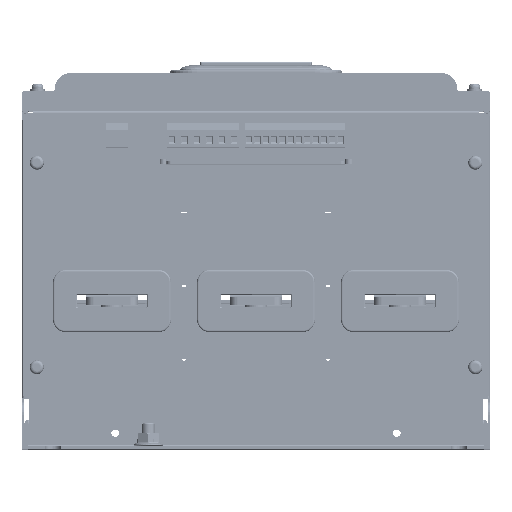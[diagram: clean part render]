
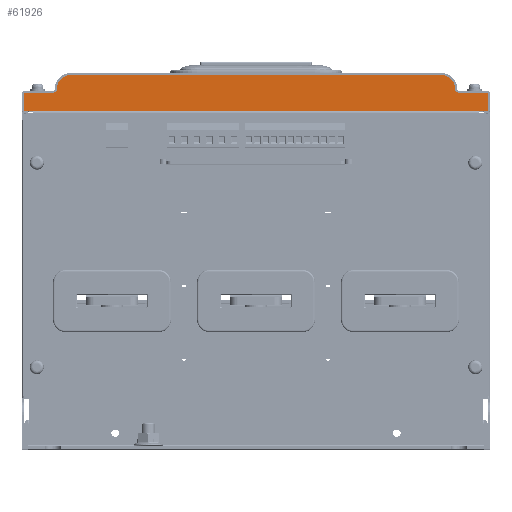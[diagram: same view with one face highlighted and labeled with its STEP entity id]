
A CAD part, top view. The second image highlights one B-rep face of the part: STEP entity #61926.
In plain terms, the highlighted planar face has unit normal (0, 0, 1) as drawn and (0, 0, -1) by its records, which use the part's own axes.
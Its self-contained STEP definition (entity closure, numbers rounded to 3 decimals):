
#61655=CARTESIAN_POINT('',(-12.5,-141.3,-188.));
#61656=DIRECTION('',(0.,0.,1.));
#61657=DIRECTION('',(0.,-1.,0.));
#61658=AXIS2_PLACEMENT_3D('',#61655,#61656,#61657);
#61660=DIRECTION('',(0.,1.,0.));
#61661=VECTOR('',#61660,17.8);
#61662=CARTESIAN_POINT('',(-12.,-141.3,-188.));
#61663=LINE('',#61662,#61661);
#61664=CARTESIAN_POINT('',(-10.3,-123.5,-188.));
#61665=DIRECTION('',(0.,0.,-1.));
#61666=DIRECTION('',(-1.,0.,0.));
#61667=AXIS2_PLACEMENT_3D('',#61664,#61665,#61666);
#61669=DIRECTION('',(1.,0.,0.));
#61670=VECTOR('',#61669,0.3);
#61671=CARTESIAN_POINT('',(-10.3,-121.8,-188.));
#61672=LINE('',#61671,#61670);
#61673=CARTESIAN_POINT('',(-10.,-113.,-188.));
#61674=DIRECTION('',(0.,0.,1.));
#61675=DIRECTION('',(0.,-1.,0.));
#61676=AXIS2_PLACEMENT_3D('',#61673,#61674,#61675);
#61678=DIRECTION('',(0.,1.,0.));
#61679=VECTOR('',#61678,226.);
#61680=CARTESIAN_POINT('',(-1.2,-113.,-188.));
#61681=LINE('',#61680,#61679);
#61682=CARTESIAN_POINT('',(-10.,113.,-188.));
#61683=DIRECTION('',(0.,0.,1.));
#61684=DIRECTION('',(1.,0.,0.));
#61685=AXIS2_PLACEMENT_3D('',#61682,#61683,#61684);
#61687=DIRECTION('',(-1.,0.,0.));
#61688=VECTOR('',#61687,0.3);
#61689=CARTESIAN_POINT('',(-10.,121.8,-188.));
#61690=LINE('',#61689,#61688);
#61691=CARTESIAN_POINT('',(-10.3,123.5,-188.));
#61692=DIRECTION('',(0.,0.,-1.));
#61693=DIRECTION('',(0.,-1.,0.));
#61694=AXIS2_PLACEMENT_3D('',#61691,#61692,#61693);
#61696=DIRECTION('',(0.,1.,0.));
#61697=VECTOR('',#61696,17.8);
#61698=CARTESIAN_POINT('',(-12.,123.5,-188.));
#61699=LINE('',#61698,#61697);
#61700=CARTESIAN_POINT('',(-12.5,141.3,-188.));
#61701=DIRECTION('',(0.,0.,1.));
#61702=DIRECTION('',(1.,0.,0.));
#61703=AXIS2_PLACEMENT_3D('',#61700,#61701,#61702);
#61705=DIRECTION('',(-1.,0.,0.));
#61706=VECTOR('',#61705,10.5);
#61707=CARTESIAN_POINT('',(-12.5,141.8,-188.));
#61708=LINE('',#61707,#61706);
#61709=DIRECTION('',(0.,-1.,0.));
#61710=VECTOR('',#61709,283.6);
#61711=CARTESIAN_POINT('',(-23.,141.8,-188.));
#61712=LINE('',#61711,#61710);
#61713=DIRECTION('',(1.,0.,0.));
#61714=VECTOR('',#61713,10.5);
#61715=CARTESIAN_POINT('',(-23.,-141.8,-188.));
#61716=LINE('',#61715,#61714);
#61835=CARTESIAN_POINT('',(-12.5,-141.8,-188.));
#61836=CARTESIAN_POINT('',(-12.,-141.3,-188.));
#61837=VERTEX_POINT('',#61835);
#61838=VERTEX_POINT('',#61836);
#61839=CARTESIAN_POINT('',(-12.,-123.5,-188.));
#61840=VERTEX_POINT('',#61839);
#61841=CARTESIAN_POINT('',(-10.3,-121.8,-188.));
#61842=VERTEX_POINT('',#61841);
#61843=CARTESIAN_POINT('',(-10.,-121.8,-188.));
#61844=VERTEX_POINT('',#61843);
#61845=CARTESIAN_POINT('',(-1.2,-113.,-188.));
#61846=VERTEX_POINT('',#61845);
#61847=CARTESIAN_POINT('',(-1.2,113.,-188.));
#61848=VERTEX_POINT('',#61847);
#61849=CARTESIAN_POINT('',(-10.,121.8,-188.));
#61850=VERTEX_POINT('',#61849);
#61851=CARTESIAN_POINT('',(-10.3,121.8,-188.));
#61852=VERTEX_POINT('',#61851);
#61853=CARTESIAN_POINT('',(-12.,123.5,-188.));
#61854=VERTEX_POINT('',#61853);
#61855=CARTESIAN_POINT('',(-12.,141.3,-188.));
#61856=VERTEX_POINT('',#61855);
#61857=CARTESIAN_POINT('',(-12.5,141.8,-188.));
#61858=VERTEX_POINT('',#61857);
#61859=CARTESIAN_POINT('',(-23.,141.8,-188.));
#61860=VERTEX_POINT('',#61859);
#61861=CARTESIAN_POINT('',(-23.,-141.8,-188.));
#61862=VERTEX_POINT('',#61861);
#61891=CARTESIAN_POINT('',(0.,0.,-188.));
#61892=DIRECTION('',(0.,0.,1.));
#61893=DIRECTION('',(0.,-1.,0.));
#61894=AXIS2_PLACEMENT_3D('',#61891,#61892,#61893);
#61895=PLANE('',#61894);
#61897=ORIENTED_EDGE('',*,*,#61896,.T.);
#61899=ORIENTED_EDGE('',*,*,#61898,.T.);
#61901=ORIENTED_EDGE('',*,*,#61900,.T.);
#61903=ORIENTED_EDGE('',*,*,#61902,.T.);
#61905=ORIENTED_EDGE('',*,*,#61904,.T.);
#61907=ORIENTED_EDGE('',*,*,#61906,.T.);
#61909=ORIENTED_EDGE('',*,*,#61908,.T.);
#61911=ORIENTED_EDGE('',*,*,#61910,.T.);
#61913=ORIENTED_EDGE('',*,*,#61912,.T.);
#61915=ORIENTED_EDGE('',*,*,#61914,.T.);
#61917=ORIENTED_EDGE('',*,*,#61916,.T.);
#61919=ORIENTED_EDGE('',*,*,#61918,.T.);
#61921=ORIENTED_EDGE('',*,*,#61920,.T.);
#61923=ORIENTED_EDGE('',*,*,#61922,.T.);
#61924=EDGE_LOOP('',(#61897,#61899,#61901,#61903,#61905,#61907,#61909,#61911,
#61913,#61915,#61917,#61919,#61921,#61923));
#61925=FACE_OUTER_BOUND('',#61924,.F.);
#61926=ADVANCED_FACE('',(#61925),#61895,.F.);
#61659=CIRCLE('',#61658,0.5);
#61668=CIRCLE('',#61667,1.7);
#61677=CIRCLE('',#61676,8.8);
#61686=CIRCLE('',#61685,8.8);
#61695=CIRCLE('',#61694,1.7);
#61704=CIRCLE('',#61703,0.5);
#61896=EDGE_CURVE('',#61837,#61838,#61659,.T.);
#61898=EDGE_CURVE('',#61838,#61840,#61663,.T.);
#61900=EDGE_CURVE('',#61840,#61842,#61668,.T.);
#61902=EDGE_CURVE('',#61842,#61844,#61672,.T.);
#61904=EDGE_CURVE('',#61844,#61846,#61677,.T.);
#61906=EDGE_CURVE('',#61846,#61848,#61681,.T.);
#61908=EDGE_CURVE('',#61848,#61850,#61686,.T.);
#61910=EDGE_CURVE('',#61850,#61852,#61690,.T.);
#61912=EDGE_CURVE('',#61852,#61854,#61695,.T.);
#61914=EDGE_CURVE('',#61854,#61856,#61699,.T.);
#61916=EDGE_CURVE('',#61856,#61858,#61704,.T.);
#61918=EDGE_CURVE('',#61858,#61860,#61708,.T.);
#61920=EDGE_CURVE('',#61860,#61862,#61712,.T.);
#61922=EDGE_CURVE('',#61862,#61837,#61716,.T.);
